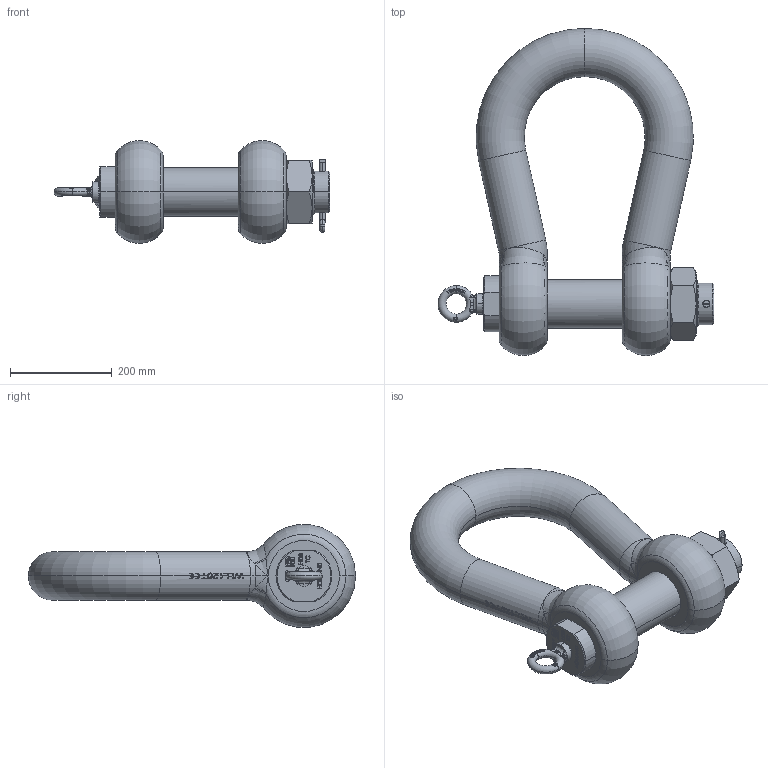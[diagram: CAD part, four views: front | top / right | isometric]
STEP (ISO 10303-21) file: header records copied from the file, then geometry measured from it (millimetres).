
FILE_DESCRIPTION(('STEP AP203'),'1');
FILE_NAME('hdgphm0120.stp','2022-07-21T11:11:53',('TraceParts'),('TraceParts S.A.'),'Spatial InterOp 3D',' ',' ');
FILE_SCHEMA(('CONFIG_CONTROL_DESIGN'));
Length unit declared in the file: millimetre
Products named in the file (1): 1
Bounding box: 543.3 x 644.25 x 202.37 mm (x, y, z)
Volume: 14617621 mm3; surface area: 766075.6 mm2
Topology: 6 solids, 6 shells, 1094 faces, 2928 edges, 1887 vertices
Faces by surface type: plane 420, bspline 361, cylinder 212, torus 61, cone 40
Entity records: 53862 total; most frequent: CARTESIAN_POINT 30205, ORIENTED_EDGE 5828, DIRECTION 3520, EDGE_CURVE 2914, VERTEX_POINT 1887, LINE 1280, VECTOR 1280, EDGE_LOOP 1159
